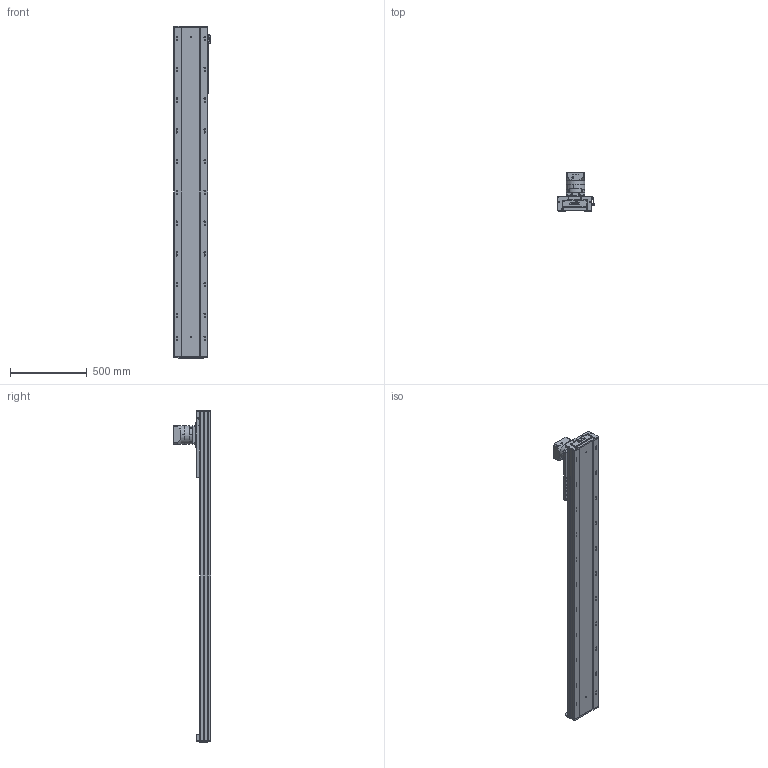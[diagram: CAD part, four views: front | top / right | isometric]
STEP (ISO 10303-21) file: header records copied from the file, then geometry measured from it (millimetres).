
FILE_DESCRIPTION (( 'STEP AP203' ), '1' );
FILE_NAME ('RY220-C-300-UK.SLDASM_1650.step', '2022-08-01T05:59:30', ( '' ), ( '' ), 'SwSTEP 2.0', 'SolidWorks 2016', '' );
FILE_SCHEMA (( 'CONFIG_CONTROL_DESIGN' ));
Length unit declared in the file: millimetre
Products named in the file (10): RY220喘沭賑輸; PF115L1-S2-22-58-110-145-M8; RY220喘沭俋离覜茼え; RY220喘沭綴裔啣; RY220-齿条模组电机安装板; RY140直线电机感应器674光电安装座; 滅袉蝶輸ㄗG412隅秶ㄘ; 覜茼ん674; RY220菁釱MK-300_1650; RY220-C-300-UK.SLDASM_1650
Assembly tree (12 placements, depth 2):
  RY220-C-300-UK.SLDASM_1650
    RY220菁釱MK-300_1650
    RY220喘沭賑輸
    RY220-齿条模组电机安装板
    PF115L1-S2-22-58-110-145-M8
    RY220喘沭綴裔啣  x2
    滅袉蝶輸ㄗG412隅秶ㄘ  x2
    RY140直线电机感应器674光电安装座
    覜茼ん674  x2
    RY220喘沭俋离覜茼え
Bounding box: 247 x 244.5 x 2159 mm (x, y, z)
Volume: 15893376.4 mm3; surface area: 3195225.9 mm2
Topology: 18 solids, 26 shells, 2120 faces, 5693 edges, 3595 vertices
Faces by surface type: cylinder 993, plane 751, cone 214, bspline 162
Entity records: 67157 total; most frequent: CARTESIAN_POINT 18379, DIRECTION 10007, ORIENTED_EDGE 9858, EDGE_CURVE 4929, AXIS2_PLACEMENT_3D 3811, VERTEX_POINT 3221, EDGE_LOOP 2434, LINE 2385
